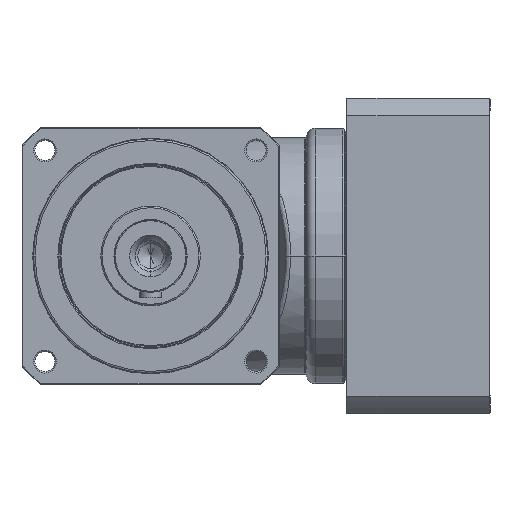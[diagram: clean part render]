
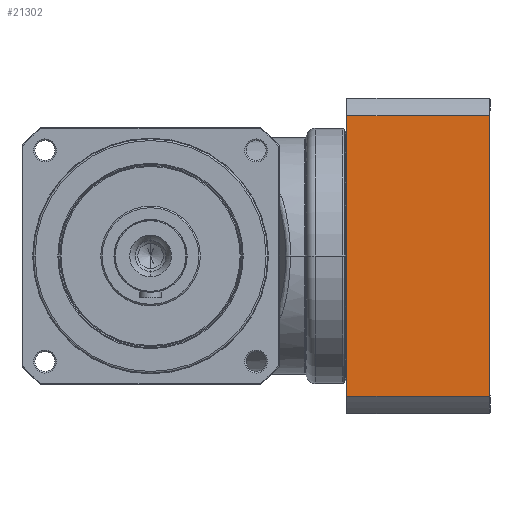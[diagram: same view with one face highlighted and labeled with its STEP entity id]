
A CAD part, left-side view. The second image highlights one B-rep face of the part: STEP entity #21302.
In plain terms, the highlighted planar face has unit normal (-1, 0, 0) as drawn and (0, -1, 0) by its records, which use the part's own axes.
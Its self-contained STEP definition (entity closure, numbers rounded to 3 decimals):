
#20158=DIRECTION('',(1.,0.,0.));
#20159=VECTOR('',#20158,154.961);
#20160=CARTESIAN_POINT('',(-77.481,-87.,
3.));
#20161=LINE('',#20160,#20159);
#20162=DIRECTION('',(0.,0.,1.));
#20163=VECTOR('',#20162,78.5);
#20164=CARTESIAN_POINT('',(-77.481,-87.,
3.));
#20165=LINE('',#20164,#20163);
#20166=DIRECTION('',(1.,0.,0.));
#20167=VECTOR('',#20166,154.961);
#20168=CARTESIAN_POINT('',(-77.481,-87.,
81.5));
#20169=LINE('',#20168,#20167);
#20170=DIRECTION('',(0.,0.,1.));
#20171=VECTOR('',#20170,78.5);
#20172=CARTESIAN_POINT('',(77.481,-87.,
3.));
#20173=LINE('',#20172,#20171);
#20867=CARTESIAN_POINT('',(-77.481,-87.,
81.5));
#20868=CARTESIAN_POINT('',(77.481,-87.,
81.5));
#20869=VERTEX_POINT('',#20867);
#20870=VERTEX_POINT('',#20868);
#20904=CARTESIAN_POINT('',(-77.481,-87.,3.));
#20906=VERTEX_POINT('',#20904);
#20909=CARTESIAN_POINT('',(77.481,-87.,
3.));
#20910=VERTEX_POINT('',#20909);
#21288=CARTESIAN_POINT('',(-87.,-87.,0.));
#21289=DIRECTION('',(0.,-1.,0.));
#21290=DIRECTION('',(1.,0.,0.));
#21291=AXIS2_PLACEMENT_3D('',#21288,#21289,#21290);
#21292=PLANE('',#21291);
#21293=ORIENTED_EDGE('',*,*,#21282,.F.);
#21295=ORIENTED_EDGE('',*,*,#21294,.T.);
#21297=ORIENTED_EDGE('',*,*,#21296,.T.);
#21299=ORIENTED_EDGE('',*,*,#21298,.F.);
#21300=EDGE_LOOP('',(#21293,#21295,#21297,#21299));
#21301=FACE_OUTER_BOUND('',#21300,.F.);
#21302=ADVANCED_FACE('',(#21301),#21292,.T.);
#21282=EDGE_CURVE('',#20906,#20910,#20161,.T.);
#21294=EDGE_CURVE('',#20906,#20869,#20165,.T.);
#21296=EDGE_CURVE('',#20869,#20870,#20169,.T.);
#21298=EDGE_CURVE('',#20910,#20870,#20173,.T.);
